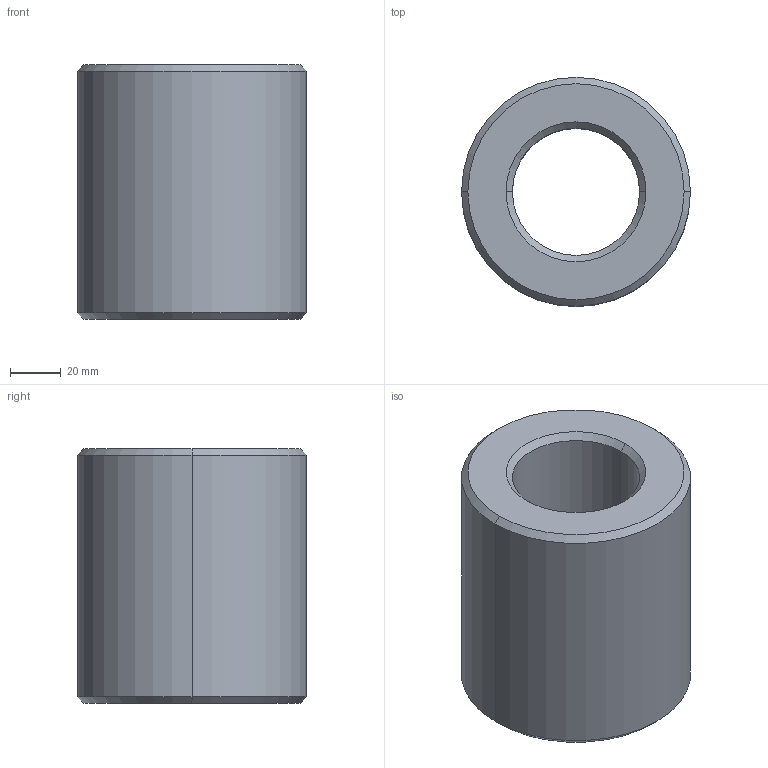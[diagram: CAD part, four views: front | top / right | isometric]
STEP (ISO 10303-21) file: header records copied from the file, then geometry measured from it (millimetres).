
FILE_DESCRIPTION (( 'STEP AP203' ), '1' );
FILE_NAME ('L1330.R50-08.step', '2024-10-24T09:29:44', ( '' ), ( '' ), 'SwSTEP 2.0', 'SolidWorks 2019', '' );
FILE_SCHEMA (( 'CONFIG_CONTROL_DESIGN' ));
Length unit declared in the file: millimetre
Products named in the file (1): L1330.R50-08
Bounding box: 90 x 90 x 100 mm (x, y, z)
Volume: 437074.1 mm3; surface area: 51490.5 mm2
Topology: 1 solids, 1 shells, 14 faces, 28 edges, 16 vertices
Faces by surface type: cone 8, cylinder 4, plane 2
Entity records: 445 total; most frequent: DIRECTION 74, CARTESIAN_POINT 59, ORIENTED_EDGE 56, AXIS2_PLACEMENT_3D 31, EDGE_CURVE 28, CIRCLE 16, VERTEX_POINT 16, EDGE_LOOP 16
